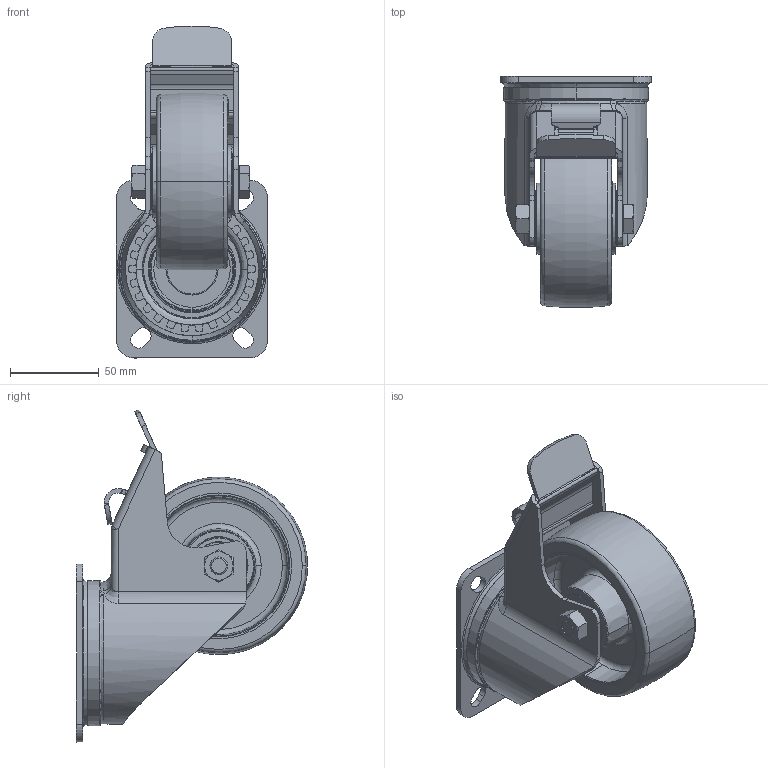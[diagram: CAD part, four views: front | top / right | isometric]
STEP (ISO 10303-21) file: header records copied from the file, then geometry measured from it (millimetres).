
FILE_DESCRIPTION (( 'STEP AP214' ), '1' );
FILE_NAME ('LK-ALTH_100K-1-FI_605600-214.step', '2013-01-12T12:15:17', ( '' ), ( '' ), 'SwSTEP 2.0', 'SolidWorks 2012', '' );
FILE_SCHEMA (( 'AUTOMOTIVE_DESIGN' ));
Length unit declared in the file: millimetre
Products named in the file (5): AM_LK_10x52x2,5_G; ALTH_G15_ALTH_100_15K_231191; ALTH_100_15K_G15; GH-LK_100-1-FI_G15; LK-ALTH_100K-1-FI_605600-214
Assembly tree (4 placements, depth 3):
  LK-ALTH_100K-1-FI_605600-214
    GH-LK_100-1-FI_G15
    ALTH_G15_ALTH_100_15K_231191
      ALTH_100_15K_G15
    AM_LK_10x52x2,5_G
Bounding box: 85 x 129.88 x 186.63 mm (x, y, z)
Volume: 364090.2 mm3; surface area: 111864.6 mm2
Topology: 3 solids, 6 shells, 1238 faces, 3391 edges, 2226 vertices
Faces by surface type: plane 524, cylinder 293, bspline 278, torus 81, cone 59, sphere 3
Entity records: 66527 total; most frequent: CARTESIAN_POINT 25812, ORIENTED_EDGE 6772, DIRECTION 5404, EDGE_CURVE 3386, VERTEX_POINT 2224, LINE 1826, VECTOR 1826, AXIS2_PLACEMENT_3D 1789
